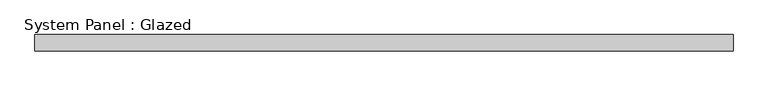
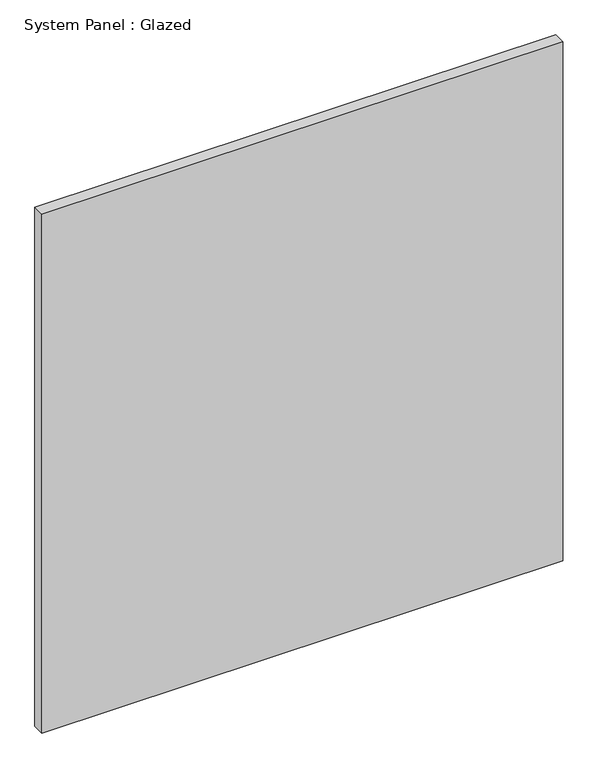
"""IFC4 building model written with IfcOpenShell, lengths in millimetres: plate geometry, System Panel : Glazed."""

from ifc_helpers import new_model, si_unit, origin, origin_with_axes, place, context, project, spatial, polyline, outline, extrude, source, transform, mapped, element, save


def system_panel_glazed_e049e42f(model_context):
    return source(origin(), model_context, "Body", "SweptSolid", [
        extrude(outline(polyline([(548.9162502, 19.05), (-548.9162502, 19.05), (-548.9162502, 44.45), (548.9162502, 44.45), (548.9162502, 19.05)])), origin_with_axes(), (0.0, 0.0, 1.0), 1155.7),
    ])


if __name__ == "__main__":
    model = new_model("IFC4")
    model_context = context("Model", 3, world=origin())
    ifc_project = project(units=[si_unit("LENGTHUNIT", "METRE", prefix="MILLI")], contexts=[model_context])
    site = spatial("IfcSite", under=ifc_project)
    building = spatial("IfcBuilding", under=site)
    placement = place(None, origin())
    system_panel_glazed_shape = system_panel_glazed_e049e42f(model_context)
    element("IfcPlate", 1, ObjectType="System Panel : Glazed", at=placement, inside=building, context=model_context, shape_type="MappedRepresentation", body=[
        mapped(system_panel_glazed_shape, transform((0.0, 0.0, 0.0), x_axis=(1.0, 0.0, 0.0), y_axis=(0.0, 1.0, 0.0), z_axis=(0.0, 0.0, 1.0))),
    ])
    save(model, "model.ifc")
